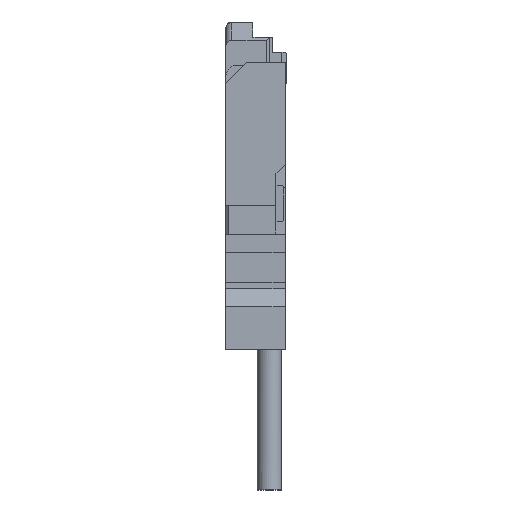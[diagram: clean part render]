
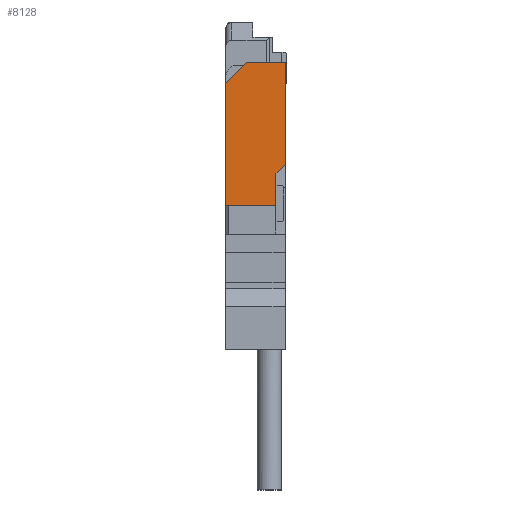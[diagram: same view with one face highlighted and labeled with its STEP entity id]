
A CAD part, left-side view. The second image highlights one B-rep face of the part: STEP entity #8128.
In plain terms, the highlighted planar face has unit normal (-1, 0, 0).
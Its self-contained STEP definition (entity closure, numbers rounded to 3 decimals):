
#2928 = EDGE_CURVE ( 'NONE', #26460, #26066, #20308, .T. ) ;
#2934 = EDGE_CURVE ( 'NONE', #18431, #26460, #20324, .T. ) ;
#2970 = EDGE_CURVE ( 'NONE', #18149, #18135, #22732, .T. ) ;
#2971 = EDGE_CURVE ( 'NONE', #18149, #18159, #22734, .T. ) ;
#2972 = EDGE_CURVE ( 'NONE', #18159, #26066, #22728, .T. ) ;
#2973 = EDGE_CURVE ( 'NONE', #18152, #18431, #22738, .T. ) ;
#2974 = EDGE_CURVE ( 'NONE', #18135, #18152, #22740, .T. ) ;
#5595 = CARTESIAN_POINT ( 'NONE',  ( -3.35, 1., -0.52 ) ) ;
#5601 = CARTESIAN_POINT ( 'NONE',  ( -3.35, 1., -2.53 ) ) ;
#5603 = CARTESIAN_POINT ( 'NONE',  ( -3.35, 0.65, -0.17 ) ) ;
#5607 = CARTESIAN_POINT ( 'NONE',  ( -3.35, 0.17, -2.53 ) ) ;
#5748 = CARTESIAN_POINT ( 'NONE',  ( -3.35, 0.02, -0.17 ) ) ;
#6178 = CARTESIAN_POINT ( 'NONE',  ( -3.35, 0.17, -2. ) ) ;
#6401 = CARTESIAN_POINT ( 'NONE',  ( -3.35, 0.02, -1.85 ) ) ;
#8128 = ADVANCED_FACE ( 'NONE', ( #25614 ), #28126, .F. ) ;
#9286 = ORIENTED_EDGE ( 'NONE', *, *, #2970, .F. ) ;
#9287 = ORIENTED_EDGE ( 'NONE', *, *, #2971, .T. ) ;
#9288 = ORIENTED_EDGE ( 'NONE', *, *, #2972, .T. ) ;
#9289 = ORIENTED_EDGE ( 'NONE', *, *, #2928, .F. ) ;
#9290 = ORIENTED_EDGE ( 'NONE', *, *, #2934, .F. ) ;
#9291 = ORIENTED_EDGE ( 'NONE', *, *, #2973, .F. ) ;
#9292 = ORIENTED_EDGE ( 'NONE', *, *, #2974, .F. ) ;
#9934 = EDGE_LOOP ( 'NONE', ( #9286, #9287, #9288, #9289, #9290, #9291, #9292 ) ) ;
#18135 = VERTEX_POINT ( 'NONE', #5595 ) ;
#18149 = VERTEX_POINT ( 'NONE', #5601 ) ;
#18152 = VERTEX_POINT ( 'NONE', #5603 ) ;
#18159 = VERTEX_POINT ( 'NONE', #5607 ) ;
#18431 = VERTEX_POINT ( 'NONE', #5748 ) ;
#20308 = LINE ( 'NONE', #21370, #20312 ) ;
#20312 = VECTOR ( 'NONE', #21371, 1000. ) ;
#20324 = LINE ( 'NONE', #21366, #20332 ) ;
#20332 = VECTOR ( 'NONE', #21383, 1000. ) ;
#21366 = CARTESIAN_POINT ( 'NONE',  ( -3.35, 0.02, -0.17 ) ) ;
#21370 = CARTESIAN_POINT ( 'NONE',  ( -3.35, 0.17, -2. ) ) ;
#21371 = DIRECTION ( 'NONE',  ( 0., 0.707, -0.707 ) ) ;
#21383 = DIRECTION ( 'NONE',  ( 0., 0., -1. ) ) ;
#21854 = CARTESIAN_POINT ( 'NONE',  ( -3.35, 0.17, -3. ) ) ;
#21865 = CARTESIAN_POINT ( 'NONE',  ( -3.35, 1., -1.2 ) ) ;
#21866 = DIRECTION ( 'NONE',  ( 0., 0., 1. ) ) ;
#21867 = CARTESIAN_POINT ( 'NONE',  ( -3.35, 1., -2.53 ) ) ;
#21869 = DIRECTION ( 'NONE',  ( 0., -1., 0. ) ) ;
#21870 = DIRECTION ( 'NONE',  ( 0., 0., 1. ) ) ;
#21871 = CARTESIAN_POINT ( 'NONE',  ( -3.35, 0.02, -0.17 ) ) ;
#21872 = DIRECTION ( 'NONE',  ( 0., -1., 0. ) ) ;
#21873 = CARTESIAN_POINT ( 'NONE',  ( -3.35, 1., -0.52 ) ) ;
#21875 = DIRECTION ( 'NONE',  ( 0., -0.707, 0.707 ) ) ;
#22728 = LINE ( 'NONE', #21854, #22739 ) ;
#22732 = LINE ( 'NONE', #21865, #22735 ) ;
#22734 = LINE ( 'NONE', #21867, #22737 ) ;
#22735 = VECTOR ( 'NONE', #21866, 1000. ) ;
#22737 = VECTOR ( 'NONE', #21869, 1000. ) ;
#22738 = LINE ( 'NONE', #21871, #22741 ) ;
#22739 = VECTOR ( 'NONE', #21870, 1000. ) ;
#22740 = LINE ( 'NONE', #21873, #22743 ) ;
#22741 = VECTOR ( 'NONE', #21872, 1000. ) ;
#22743 = VECTOR ( 'NONE', #21875, 1000. ) ;
#25614 = FACE_OUTER_BOUND ( 'NONE', #9934, .T. ) ;
#26066 = VERTEX_POINT ( 'NONE', #6178 ) ;
#26460 = VERTEX_POINT ( 'NONE', #6401 ) ;
#28126 = PLANE ( 'NONE',  #28713 ) ;
#28128 = CARTESIAN_POINT ( 'NONE',  ( -3.35, 0.53, -3. ) ) ;
#28133 = DIRECTION ( 'NONE',  ( 1., 0., 0. ) ) ;
#28134 = DIRECTION ( 'NONE',  ( 0., 0., 1. ) ) ;
#28713 = AXIS2_PLACEMENT_3D ( 'NONE', #28128, #28133, #28134 ) ;
